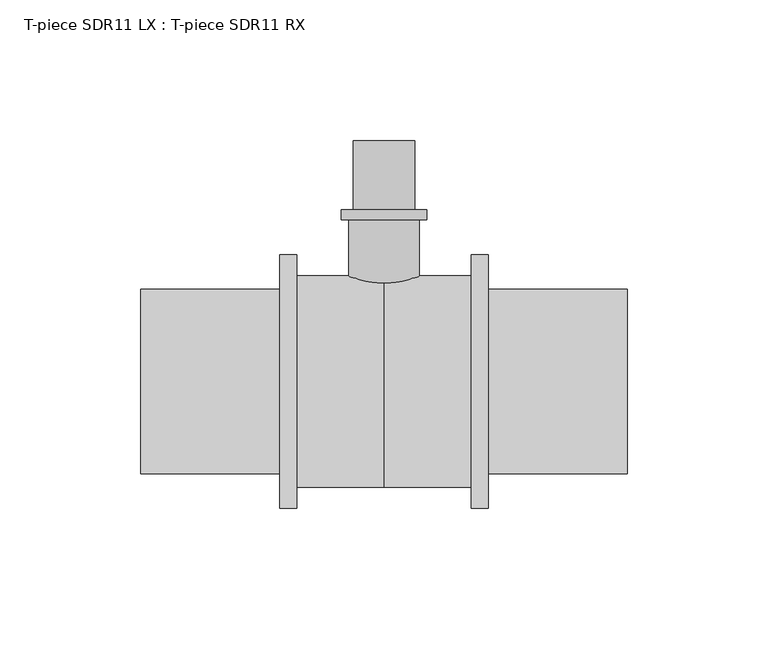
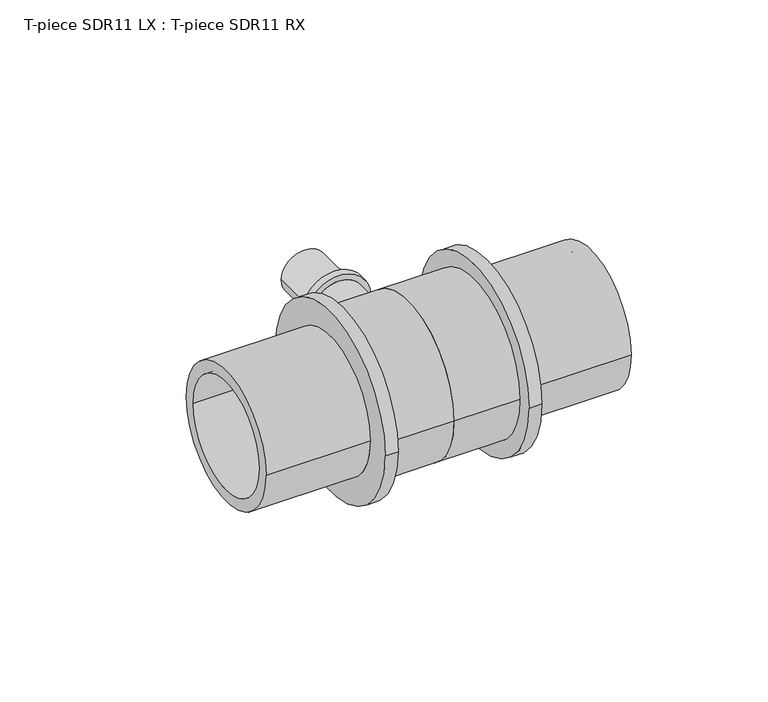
"""IFC4 building model written with IfcOpenShell, lengths in millimetres: pipe fitting geometry, T-piece SDR11 LX : T-piece SDR11 RX."""

from ifc_helpers import new_model, si_unit, point, frame, origin, place, context, project, spatial, polyline, circle_curve, ellipse_curve, trimmed, source, transform, mapped, element, save
from ifc_brep_helpers import plane_surface, cylinder_surface, revolved_surface, advanced_brep


def t_piece_sdr11_lx_t_piece_sdr11_rx_5d5b0444(model_context):
    return source(origin(), model_context, "Body", "AdvancedBrep", [
        advanced_brep(
        [(12.5, 0.6397759, 0.0), (-12.5, 0.6397759, 0.0), (-12.5, 57.4, 0.0), (12.5, 57.4, 0.0), (8.9, 85.5, 0.0), (-8.9, 85.5, 0.0), (-8.9, 0.0, 0.0), (8.9, 0.0, 0.0), (11.0, 61.0, 0.0), (-11.0, 61.0, 0.0), (-11.0, 85.5, 0.0), (11.0, 85.5, 0.0), (15.25, 57.4, 0.0), (-15.25, 57.4, 0.0), (-15.25, 61.0, 0.0), (15.25, 61.0, 0.0)],
        [
            (0, 1, circle_curve(frame((0.0, 0.6397759, 0.0), z_axis=(0.0, 1.0, 0.0), x_axis=(-1.0, 0.0, 0.0)), 12.5)),
            (1, 2),
            (2, 3, circle_curve(frame((0.0, 57.4, 0.0), z_axis=(0.0, -1.0, 0.0), x_axis=(-1.0, 0.0, 0.0)), 12.5)),
            (3, 0),
            (4, 5, circle_curve(frame((0.0, 85.5, 0.0), z_axis=(0.0, 1.0, 0.0), x_axis=(-1.0, 0.0, 0.0)), 8.9)),
            (5, 6),
            (6, 7, circle_curve(frame((0.0, 0.0, 0.0), z_axis=(0.0, -1.0, 0.0), x_axis=(-1.0, 0.0, 0.0)), 8.9)),
            (7, 4),
            (8, 9, circle_curve(frame((0.0, 61.0, 0.0), z_axis=(0.0, 1.0, 0.0), x_axis=(-1.0, 0.0, 0.0)), 11.0)),
            (9, 10),
            (10, 11, circle_curve(frame((0.0, 85.5, 0.0), z_axis=(0.0, -1.0, 0.0), x_axis=(-1.0, 0.0, 0.0)), 11.0)),
            (11, 8),
            (12, 13, circle_curve(frame((0.0, 57.4, 0.0), z_axis=(0.0, 1.0, 0.0), x_axis=(-1.0, 0.0, 0.0)), 15.25)),
            (13, 14),
            (14, 15, circle_curve(frame((0.0, 61.0, 0.0), z_axis=(0.0, -1.0, 0.0), x_axis=(-1.0, 0.0, 0.0)), 15.25)),
            (15, 12),
            (12, 13, circle_curve(frame((0.0, 57.4, 0.0), z_axis=(0.0, -1.0, 0.0), x_axis=(1.0, 0.0, 0.0)), 15.25)),
            (2, 3, circle_curve(frame((0.0, 57.4, 0.0), z_axis=(0.0, 1.0, 0.0), x_axis=(1.0, 0.0, 0.0)), 12.5)),
            (1, 0, circle_curve(frame((0.0, 0.6397759, 0.0), z_axis=(0.0, 1.0, 0.0), x_axis=(1.0, 0.0, 0.0)), 12.5)),
            (5, 4, circle_curve(frame((0.0, 85.5, 0.0), z_axis=(0.0, 1.0, 0.0), x_axis=(1.0, 0.0, 0.0)), 8.9)),
            (7, 6, circle_curve(frame((0.0, 0.0, 0.0), z_axis=(0.0, -1.0, 0.0), x_axis=(1.0, 0.0, 0.0)), 8.9)),
            (10, 11, circle_curve(frame((0.0, 85.5, 0.0), z_axis=(0.0, 1.0, 0.0), x_axis=(1.0, 0.0, 0.0)), 11.0)),
            (9, 8, circle_curve(frame((0.0, 61.0, 0.0), z_axis=(0.0, 1.0, 0.0), x_axis=(1.0, 0.0, 0.0)), 11.0)),
            (14, 15, circle_curve(frame((0.0, 61.0, 0.0), z_axis=(0.0, 1.0, 0.0), x_axis=(1.0, 0.0, 0.0)), 15.25)),
            (6, 1, circle_curve(frame((-4.1462802, 37.197475, 0.0), z_axis=(0.0, 0.0, -1.0), x_axis=(0.0, -1.0, 0.0)), 37.5)),
            (0, 7, circle_curve(frame((4.1462802, 37.197475, 0.0), z_axis=(0.0, 0.0, -1.0), x_axis=(0.0, -1.0, 0.0)), 37.5)),
        ],
        [
            cylinder_surface(frame((0.0, 0.0, 0.0), z_axis=(0.0, -1.0, 0.0), x_axis=(-1.0, 0.0, 0.0)), 12.5),
            revolved_surface(polyline([(-8.9, 0.0, 0.0), (-8.9, 85.5, 0.0)]), (0.0, 0.0, 0.0), (0.0, -1.0, 0.0)),
            cylinder_surface(frame((0.0, 0.0, 0.0), z_axis=(0.0, -1.0, 0.0), x_axis=(-1.0, 0.0, 0.0)), 11.0),
            cylinder_surface(frame((0.0, 0.0, 0.0), z_axis=(0.0, -1.0, 0.0), x_axis=(-1.0, 0.0, 0.0)), 15.25),
            plane_surface(frame((0.0, 57.4, 0.0), z_axis=(0.0, -1.0, 0.0), x_axis=(1.0, 0.0, 0.0))),
            cylinder_surface(frame((0.0, 0.0, 0.0), z_axis=(0.0, -1.0, 0.0), x_axis=(1.0, 0.0, 0.0)), 12.5),
            revolved_surface(polyline([(8.9, 0.0, 0.0), (8.9, 85.5, 0.0)]), (0.0, 0.0, 0.0), (0.0, -1.0, 0.0)),
            plane_surface(frame((0.0, 85.5, 0.0), z_axis=(0.0, 1.0, 0.0), x_axis=(1.0, 0.0, 0.0))),
            cylinder_surface(frame((0.0, 0.0, 0.0), z_axis=(0.0, -1.0, 0.0), x_axis=(1.0, 0.0, 0.0)), 11.0),
            plane_surface(frame((0.0, 61.0, 0.0), z_axis=(0.0, 1.0, 0.0), x_axis=(1.0, 0.0, 0.0))),
            cylinder_surface(frame((0.0, 0.0, 0.0), z_axis=(0.0, -1.0, 0.0), x_axis=(1.0, 0.0, 0.0)), 15.25),
            revolved_surface(trimmed(ellipse_curve(frame((-4.1462802, 37.197475, 0.0), z_axis=(0.0, 0.0, 1.0), x_axis=(0.0, -1.0, 0.0)), 37.5, 37.5), [point((-12.5, 0.6397759, 0.0))], [point((-8.9, 0.0, 0.0))], True, "CARTESIAN"), (0.0, 0.0, 0.0), (0.0, -1.0, 0.0)),
            revolved_surface(trimmed(ellipse_curve(frame((4.1462802, 37.197475, 0.0), z_axis=(0.0, 0.0, -1.0), x_axis=(0.0, -1.0, 0.0)), 37.5, 37.5), [point((12.5, 0.6397759, 0.0))], [point((8.9, 0.0, 0.0))], True, "CARTESIAN"), (0.0, 0.0, 0.0), (0.0, -1.0, 0.0)),
        ],
        [
            (0, [[1, 2, 3, 4]]),
            (1, [[5, 6, 7, 8]]),
            (2, [[9, 10, 11, 12]]),
            (3, [[13, 14, 15, 16]]),
            (4, [[17, -13], [18, -3]]),
            (5, [[19, -4, -18, -2]]),
            (6, [[20, -8, 21, -6]]),
            (7, [[22, -11], [-20, -5]]),
            (8, [[23, -12, -22, -10]]),
            (9, [[24, -15], [-23, -9]]),
            (10, [[-17, -16, -24, -14]]),
            (11, [[-7, 25, -1, 26]]),
            (12, [[-21, -26, -19, -25]]),
        ],
    ),
        advanced_brep(
        [(31.0, 37.5, 0.0), (31.0, -37.5, 0.0), (0.0, -37.5, 0.0), (0.0, 37.5, 0.0), (0.0, 27.0, 0.0), (0.0, -27.0, 0.0), (86.4, -27.0, 0.0), (86.4, 27.0, 0.0), (86.4, 32.7, 0.0), (86.4, -32.7, 0.0), (37.1, -32.7, 0.0), (37.1, 32.7, 0.0), (37.1, 45.0, 0.0), (37.1, -45.0, 0.0), (31.0, -45.0, 0.0), (31.0, 45.0, 0.0)],
        [
            (0, 1, circle_curve(frame((31.0, 0.0, 0.0), z_axis=(-1.0, 0.0, 0.0), x_axis=(0.0, -1.0, 0.0)), 37.5)),
            (1, 2),
            (2, 3, circle_curve(frame((0.0, 0.0, 0.0), z_axis=(1.0, 0.0, 0.0), x_axis=(0.0, -1.0, 0.0)), 37.5)),
            (3, 0),
            (4, 5, circle_curve(frame((0.0, 0.0, 0.0), z_axis=(-1.0, 0.0, 0.0), x_axis=(0.0, -1.0, 0.0)), 27.0)),
            (5, 6),
            (6, 7, circle_curve(frame((86.4, 0.0, 0.0), z_axis=(1.0, 0.0, 0.0), x_axis=(0.0, -1.0, 0.0)), 27.0)),
            (7, 4),
            (8, 9, circle_curve(frame((86.4, 0.0, 0.0), z_axis=(-1.0, 0.0, 0.0), x_axis=(0.0, -1.0, 0.0)), 32.7)),
            (9, 10),
            (10, 11, circle_curve(frame((37.1, 0.0, 0.0), z_axis=(1.0, 0.0, 0.0), x_axis=(0.0, -1.0, 0.0)), 32.7)),
            (11, 8),
            (12, 13, circle_curve(frame((37.1, 0.0, 0.0), z_axis=(-1.0, 0.0, 0.0), x_axis=(0.0, -1.0, 0.0)), 45.0)),
            (13, 14),
            (14, 15, circle_curve(frame((31.0, 0.0, 0.0), z_axis=(1.0, 0.0, 0.0), x_axis=(0.0, -1.0, 0.0)), 45.0)),
            (15, 12),
            (14, 15, circle_curve(frame((31.0, 0.0, 0.0), z_axis=(-1.0, 0.0, 0.0), x_axis=(0.0, 1.0, 0.0)), 45.0)),
            (0, 1, circle_curve(frame((31.0, 0.0, 0.0), z_axis=(1.0, 0.0, 0.0), x_axis=(0.0, 1.0, 0.0)), 37.5)),
            (3, 2, circle_curve(frame((0.0, 0.0, 0.0), z_axis=(1.0, 0.0, 0.0), x_axis=(0.0, 1.0, 0.0)), 37.5)),
            (4, 5, circle_curve(frame((0.0, 0.0, 0.0), z_axis=(1.0, 0.0, 0.0), x_axis=(0.0, 1.0, 0.0)), 27.0)),
            (7, 6, circle_curve(frame((86.4, 0.0, 0.0), z_axis=(1.0, 0.0, 0.0), x_axis=(0.0, 1.0, 0.0)), 27.0)),
            (8, 9, circle_curve(frame((86.4, 0.0, 0.0), z_axis=(1.0, 0.0, 0.0), x_axis=(0.0, 1.0, 0.0)), 32.7)),
            (11, 10, circle_curve(frame((37.1, 0.0, 0.0), z_axis=(1.0, 0.0, 0.0), x_axis=(0.0, 1.0, 0.0)), 32.7)),
            (12, 13, circle_curve(frame((37.1, 0.0, 0.0), z_axis=(1.0, 0.0, 0.0), x_axis=(0.0, 1.0, 0.0)), 45.0)),
        ],
        [
            cylinder_surface(frame((0.0, 0.0, 0.0), z_axis=(1.0, 0.0, 0.0), x_axis=(0.0, -1.0, 0.0)), 37.5),
            revolved_surface(polyline([(86.4, -27.0, 0.0), (0.0, -27.0, 0.0)]), (0.0, 0.0, 0.0), (1.0, 0.0, 0.0)),
            cylinder_surface(frame((0.0, 0.0, 0.0), z_axis=(1.0, 0.0, 0.0), x_axis=(0.0, -1.0, 0.0)), 32.7),
            cylinder_surface(frame((0.0, 0.0, 0.0), z_axis=(1.0, 0.0, 0.0), x_axis=(0.0, -1.0, 0.0)), 45.0),
            plane_surface(frame((31.0, 0.0, 0.0), z_axis=(-1.0, 0.0, 0.0), x_axis=(0.0, 1.0, 0.0))),
            cylinder_surface(frame((0.0, 0.0, 0.0), z_axis=(1.0, 0.0, 0.0), x_axis=(0.0, 1.0, 0.0)), 37.5),
            plane_surface(frame((0.0, 0.0, 0.0), z_axis=(-1.0, 0.0, 0.0), x_axis=(0.0, 1.0, 0.0))),
            revolved_surface(polyline([(86.4, 27.0, 0.0), (0.0, 27.0, 0.0)]), (0.0, 0.0, 0.0), (1.0, 0.0, 0.0)),
            plane_surface(frame((86.4, 0.0, 0.0), z_axis=(1.0, 0.0, 0.0), x_axis=(0.0, 1.0, 0.0))),
            cylinder_surface(frame((0.0, 0.0, 0.0), z_axis=(1.0, 0.0, 0.0), x_axis=(0.0, 1.0, 0.0)), 32.7),
            plane_surface(frame((37.1, 0.0, 0.0), z_axis=(1.0, 0.0, 0.0), x_axis=(0.0, 1.0, 0.0))),
            cylinder_surface(frame((0.0, 0.0, 0.0), z_axis=(1.0, 0.0, 0.0), x_axis=(0.0, 1.0, 0.0)), 45.0),
        ],
        [
            (0, [[1, 2, 3, 4]]),
            (1, [[5, 6, 7, 8]]),
            (2, [[9, 10, 11, 12]]),
            (3, [[13, 14, 15, 16]]),
            (4, [[17, -15], [18, -1]]),
            (5, [[-18, -4, 19, -2]]),
            (6, [[-19, -3], [20, -5]]),
            (7, [[-20, -8, 21, -6]]),
            (8, [[22, -9], [-21, -7]]),
            (9, [[-22, -12, 23, -10]]),
            (10, [[24, -13], [-23, -11]]),
            (11, [[-24, -16, -17, -14]]),
        ],
    ),
        advanced_brep(
        [(0.0, 37.5, 0.0), (0.0, -37.5, 0.0), (-31.0, -37.5, 0.0), (-31.0, 37.5, 0.0), (-86.4, 27.0, 0.0), (-86.4, -27.0, 0.0), (0.0, -27.0, 0.0), (0.0, 27.0, 0.0), (-37.1, 32.7, 0.0), (-37.1, -32.7, 0.0), (-86.4, -32.7, 0.0), (-86.4, 32.7, 0.0), (-31.0, 45.0, 0.0), (-31.0, -45.0, 0.0), (-37.1, -45.0, 0.0), (-37.1, 45.0, 0.0)],
        [
            (0, 1, circle_curve(frame((0.0, 0.0, 0.0), z_axis=(-1.0, 0.0, 0.0), x_axis=(0.0, -1.0, 0.0)), 37.5)),
            (1, 2),
            (2, 3, circle_curve(frame((-31.0, 0.0, 0.0), z_axis=(1.0, 0.0, 0.0), x_axis=(0.0, -1.0, 0.0)), 37.5)),
            (3, 0),
            (4, 5, circle_curve(frame((-86.4, 0.0, 0.0), z_axis=(-1.0, 0.0, 0.0), x_axis=(0.0, -1.0, 0.0)), 27.0)),
            (5, 6),
            (6, 7, circle_curve(frame((0.0, 0.0, 0.0), z_axis=(1.0, 0.0, 0.0), x_axis=(0.0, -1.0, 0.0)), 27.0)),
            (7, 4),
            (8, 9, circle_curve(frame((-37.1, 0.0, 0.0), z_axis=(-1.0, 0.0, 0.0), x_axis=(0.0, -1.0, 0.0)), 32.7)),
            (9, 10),
            (10, 11, circle_curve(frame((-86.4, 0.0, 0.0), z_axis=(1.0, 0.0, 0.0), x_axis=(0.0, -1.0, 0.0)), 32.7)),
            (11, 8),
            (12, 13, circle_curve(frame((-31.0, 0.0, 0.0), z_axis=(-1.0, 0.0, 0.0), x_axis=(0.0, -1.0, 0.0)), 45.0)),
            (13, 14),
            (14, 15, circle_curve(frame((-37.1, 0.0, 0.0), z_axis=(1.0, 0.0, 0.0), x_axis=(0.0, -1.0, 0.0)), 45.0)),
            (15, 12),
            (12, 13, circle_curve(frame((-31.0, 0.0, 0.0), z_axis=(1.0, 0.0, 0.0), x_axis=(0.0, 1.0, 0.0)), 45.0)),
            (2, 3, circle_curve(frame((-31.0, 0.0, 0.0), z_axis=(-1.0, 0.0, 0.0), x_axis=(0.0, 1.0, 0.0)), 37.5)),
            (1, 0, circle_curve(frame((0.0, 0.0, 0.0), z_axis=(-1.0, 0.0, 0.0), x_axis=(0.0, 1.0, 0.0)), 37.5)),
            (6, 7, circle_curve(frame((0.0, 0.0, 0.0), z_axis=(-1.0, 0.0, 0.0), x_axis=(0.0, 1.0, 0.0)), 27.0)),
            (5, 4, circle_curve(frame((-86.4, 0.0, 0.0), z_axis=(-1.0, 0.0, 0.0), x_axis=(0.0, 1.0, 0.0)), 27.0)),
            (10, 11, circle_curve(frame((-86.4, 0.0, 0.0), z_axis=(-1.0, 0.0, 0.0), x_axis=(0.0, 1.0, 0.0)), 32.7)),
            (9, 8, circle_curve(frame((-37.1, 0.0, 0.0), z_axis=(-1.0, 0.0, 0.0), x_axis=(0.0, 1.0, 0.0)), 32.7)),
            (14, 15, circle_curve(frame((-37.1, 0.0, 0.0), z_axis=(-1.0, 0.0, 0.0), x_axis=(0.0, 1.0, 0.0)), 45.0)),
        ],
        [
            cylinder_surface(frame((0.0, 0.0, 0.0), z_axis=(1.0, 0.0, 0.0), x_axis=(0.0, -1.0, 0.0)), 37.5),
            revolved_surface(polyline([(0.0, -27.0, 0.0), (-86.4, -27.0, 0.0)]), (0.0, 0.0, 0.0), (1.0, 0.0, 0.0)),
            cylinder_surface(frame((0.0, 0.0, 0.0), z_axis=(1.0, 0.0, 0.0), x_axis=(0.0, -1.0, 0.0)), 32.7),
            cylinder_surface(frame((0.0, 0.0, 0.0), z_axis=(1.0, 0.0, 0.0), x_axis=(0.0, -1.0, 0.0)), 45.0),
            plane_surface(frame((-31.0, 0.0, 0.0), z_axis=(1.0, 0.0, 0.0), x_axis=(0.0, 1.0, 0.0))),
            cylinder_surface(frame((0.0, 0.0, 0.0), z_axis=(1.0, 0.0, 0.0), x_axis=(0.0, 1.0, 0.0)), 37.5),
            plane_surface(frame((0.0, 0.0, 0.0), z_axis=(1.0, 0.0, 0.0), x_axis=(0.0, 1.0, 0.0))),
            revolved_surface(polyline([(0.0, 27.0, 0.0), (-86.4, 27.0, 0.0)]), (0.0, 0.0, 0.0), (1.0, 0.0, 0.0)),
            plane_surface(frame((-86.4, 0.0, 0.0), z_axis=(-1.0, 0.0, 0.0), x_axis=(0.0, 1.0, 0.0))),
            cylinder_surface(frame((0.0, 0.0, 0.0), z_axis=(1.0, 0.0, 0.0), x_axis=(0.0, 1.0, 0.0)), 32.7),
            plane_surface(frame((-37.1, 0.0, 0.0), z_axis=(-1.0, 0.0, 0.0), x_axis=(0.0, 1.0, 0.0))),
            cylinder_surface(frame((0.0, 0.0, 0.0), z_axis=(1.0, 0.0, 0.0), x_axis=(0.0, 1.0, 0.0)), 45.0),
        ],
        [
            (0, [[1, 2, 3, 4]]),
            (1, [[5, 6, 7, 8]]),
            (2, [[9, 10, 11, 12]]),
            (3, [[13, 14, 15, 16]]),
            (4, [[17, -13], [18, -3]]),
            (5, [[19, -4, -18, -2]]),
            (6, [[-19, -1], [20, -7]]),
            (7, [[21, -8, -20, -6]]),
            (8, [[22, -11], [-21, -5]]),
            (9, [[23, -12, -22, -10]]),
            (10, [[24, -15], [-23, -9]]),
            (11, [[-17, -16, -24, -14]]),
        ],
    ),
    ])


if __name__ == "__main__":
    model = new_model("IFC4")
    model_context = context("Model", 3, world=origin())
    ifc_project = project(units=[si_unit("LENGTHUNIT", "METRE", prefix="MILLI")], contexts=[model_context])
    site = spatial("IfcSite", under=ifc_project)
    building = spatial("IfcBuilding", under=site)
    placement = place(None, origin())
    t_piece_sdr11_lx_t_piece_sdr11_rx_shape = t_piece_sdr11_lx_t_piece_sdr11_rx_5d5b0444(model_context)
    element("IfcPipeFitting", 1, ObjectType="T-piece SDR11 LX : T-piece SDR11 RX", at=placement, inside=building, context=model_context, shape_type="MappedRepresentation", body=[
        mapped(t_piece_sdr11_lx_t_piece_sdr11_rx_shape, transform((0.0, 0.0, 0.0), x_axis=(1.0, 0.0, 0.0), y_axis=(0.0, 1.0, 0.0), z_axis=(0.0, 0.0, 1.0))),
    ])
    save(model, "model.ifc")
